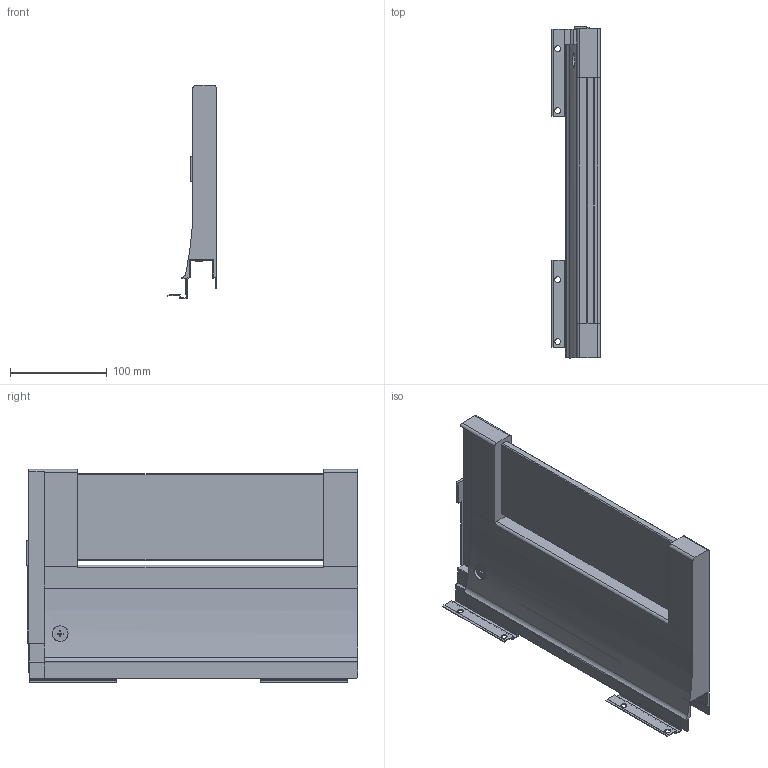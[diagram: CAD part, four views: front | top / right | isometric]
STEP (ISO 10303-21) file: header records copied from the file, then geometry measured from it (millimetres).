
FILE_DESCRIPTION (( 'STEP AP214' ), '1' );
FILE_NAME ('_XP Agantis Dekorseite H127 NL350 RE Top Glashalter.step', '2010-07-08T06:29:19', ( 'grass' ), ( '' ), 'SwSTEP 2.0', 'SolidWorks 2010', '' );
FILE_SCHEMA (( 'AUTOMOTIVE_DESIGN' ));
Length unit declared in the file: millimetre
Products named in the file (1): _XP Agantis Dekorseite H127 NL350 RE Top Glashalter
Bounding box: 50.11 x 342.6 x 220.7 mm (x, y, z)
Volume: 1120800.1 mm3; surface area: 212947.2 mm2
Topology: 1 solids, 1 shells, 150 faces, 434 edges, 285 vertices
Faces by surface type: plane 121, cylinder 29
Entity records: 5017 total; most frequent: CARTESIAN_POINT 957, ORIENTED_EDGE 868, DIRECTION 792, EDGE_CURVE 434, LINE 374, VECTOR 374, VERTEX_POINT 285, AXIS2_PLACEMENT_3D 209
